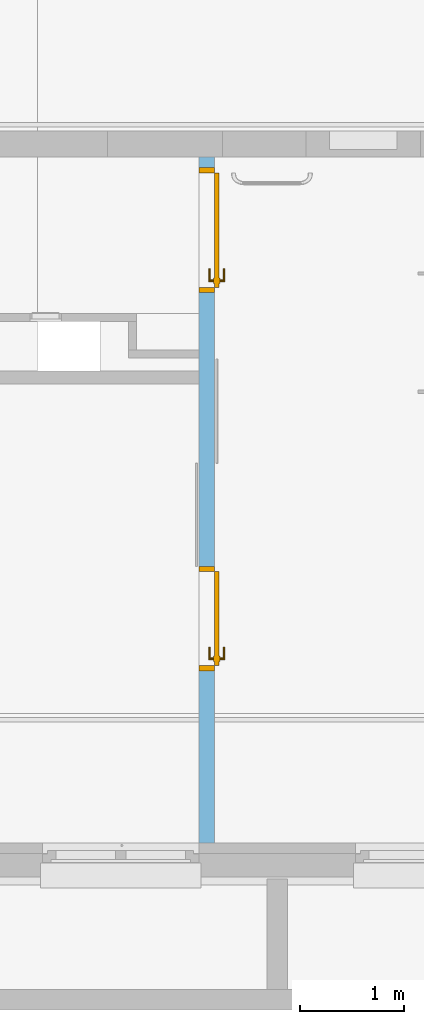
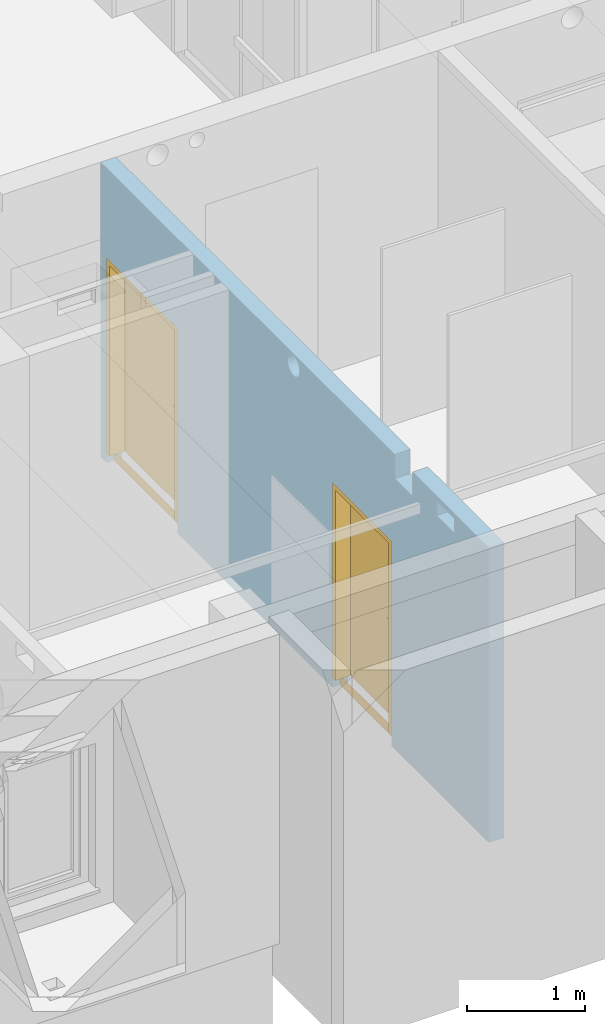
# One storey, part 54 of 84: 2 doors, 5 openings, plus 1 element that does not belong to this part.
"""IFC4 building model written with IfcOpenShell, lengths in metres."""

from ifc_helpers import new_model, entity, si_unit, converted_unit, derived_unit, frame, frame_2d, origin, origin_with_axes, place, context, subcontext, project, spatial, polyline, rectangle, outline, extrude, closed_shell, open_shell, surface_model, source, transform, mapped, material, layer, layer_set, layer_usage, type_object, element, fill, save


model = new_model("IFC4")

# Units and contexts
model_context = context("Model", 3, precision=1e-05, world=origin())
body_context = subcontext(model_context, "Body", "Model", "MODEL_VIEW")
ifc_project = project(units=[si_unit("LENGTHUNIT", "METRE"), si_unit("AREAUNIT", "SQUARE_METRE"), si_unit("VOLUMEUNIT", "CUBIC_METRE"), si_unit("MASSUNIT", "GRAM", prefix="KILO"), converted_unit("PLANEANGLEUNIT", "DEGREE", entity("IfcPlaneAngleMeasure", 0.0174532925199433), si_unit("PLANEANGLEUNIT", "RADIAN"), dimensions=[0, 0, 0, 0, 0, 0, 0]), derived_unit("THERMALTRANSMITTANCEUNIT", [(si_unit("POWERUNIT", "WATT"), 1), (si_unit("THERMODYNAMICTEMPERATUREUNIT", "KELVIN"), -1), (si_unit("LENGTHUNIT", "METRE"), -2)]), derived_unit("VOLUMETRICFLOWRATEUNIT", [(si_unit("LENGTHUNIT", "METRE"), 3), (converted_unit("TIMEUNIT", "hour", entity("IfcTimeMeasure", 3600.0), si_unit("TIMEUNIT", "SECOND"), dimensions=[0, 0, 1, 0, 0, 0, 0]), -1), (si_unit("LENGTHUNIT", "METRE"), -1)])], contexts=[model_context])

# Site, building, storey
site_placement = place(None, origin())
site = spatial("IfcSite", under=ifc_project, at=site_placement, Name="3. ASŘ", CompositionType="ELEMENT")
building_placement = place(site_placement, origin())
building = spatial("IfcBuilding", under=site, at=building_placement, Name="Pavilon C", CompositionType="ELEMENT")
storey_placement = place(building_placement, frame((0.0, 0.0, -3.3)))
storey = spatial("IfcBuildingStorey", under=building, at=storey_placement, Name="Půdorys 1.PP", CompositionType="ELEMENT", Elevation=-3.3)

# Wall, openings, doors
ifc_material = material(Name="SDK BARYT - 1 KCE + DVOJITÉ OPLÁ")
ifc_layer = layer(ifc_material, 0.15)
ifc_layer_set = layer_set([ifc_layer])
ifc_layer_usage = layer_usage(ifc_layer_set, "AXIS2", "POSITIVE", 0.0)
wall_placement = place(storey_placement, frame((14.25, 7.275, -0.1), z_axis=(0.0, 0.0, 1.0), x_axis=(0.0, -1.0, 0.0)))
wall = element("IfcWall", 1, at=wall_placement, inside=storey, material=ifc_layer_usage, Name="SDK BARYT - 1 KCE + DVOJITÉ OPLÁ", context=body_context, shape_type="SweptSolid", body=[
    extrude(rectangle(XDim=6.575, YDim=0.15, at=frame_2d((3.2875, 0.075), x_axis=(1.0, 0.0))), origin_with_axes(), (0.0, 0.0, 1.0), 3.05),
])
opening_1_placement = place(wall_placement, frame((3.925, 0.0, 0.0), z_axis=(0.0, 1.0, 0.0), x_axis=(0.0, 0.0, 1.0)))
opening_1 = element("IfcOpeningElement", 2, at=opening_1_placement, cuts=wall, Name="Dveřní otvor", ObjectType="Opening", context=body_context, shape_type="SweptSolid", body=[
    extrude(outline(polyline([(0.0, 1.0), (2.12, 1.0), (2.12, 0.0), (0.0, 0.0), (0.0, 1.0)])), origin_with_axes(), (0.0, 0.0, 1.0), 0.15),
])
opening_2_placement = place(wall_placement, frame((0.1, 0.0, 0.0), z_axis=(0.0, 1.0, 0.0), x_axis=(0.0, 0.0, 1.0)))
opening_2 = element("IfcOpeningElement", 3, at=opening_2_placement, cuts=wall, Name="Dveřní otvor", ObjectType="Opening", context=body_context, shape_type="SweptSolid", body=[
    extrude(outline(polyline([(0.0, 1.2), (2.12, 1.2), (2.12, 0.0), (0.0, 0.0), (0.0, 1.2)])), origin_with_axes(), (0.0, 0.0, 1.0), 0.15),
])
opening_3_placement = place(wall_placement, frame((5.69218911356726, 0.0, 2.85), z_axis=(0.0, 1.0, 0.0), x_axis=(0.0, 0.0, 1.0)))
element("IfcOpeningElement", 4, at=opening_3_placement, cuts=wall, Name="UT", ObjectType="Opening", context=body_context, shape_type="SweptSolid", body=[
    extrude(outline(polyline([(0.0, 0.3), (0.15, 0.3), (0.15, 0.0), (0.0, 0.0), (0.0, 0.3)])), origin_with_axes(), (0.0, 0.0, 1.0), 0.15),
])
opening_4_placement = place(wall_placement, frame((4.98218911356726, 0.0, 2.8), z_axis=(0.0, 1.0, 0.0), x_axis=(0.0, 0.0, 1.0)))
element("IfcOpeningElement", 5, at=opening_4_placement, cuts=wall, Name="VZT", ObjectType="Opening", context=body_context, shape_type="SweptSolid", body=[
    extrude(outline(polyline([(0.0, 0.3), (0.25, 0.3), (0.25, 0.0), (0.0, 0.0), (0.0, 0.3)])), origin_with_axes(), (0.0, 0.0, 1.0), 0.15),
])
opening_5_placement = place(wall_placement, frame((3.37083752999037, 0.15, 2.825), z_axis=(0.0, -1.0, 0.0), x_axis=(0.0, 0.0, 1.0)))
element("IfcOpeningElement", 6, at=opening_5_placement, cuts=wall, Name="VZT", ObjectType="Opening", context=body_context, shape_type="SweptSolid", body=[
    extrude(outline(polyline([(0.105, 0.0), (0.0940245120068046, 0.000575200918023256), (0.0831692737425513, 0.00229450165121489), (0.0725532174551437, 0.00513906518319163), (0.0622926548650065, 0.0090777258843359), (0.052500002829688, 0.0140673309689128), (0.04328255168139, 0.0200532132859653), (0.0347412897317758, 0.0269697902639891), (0.0269697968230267, 0.0347412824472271), (0.0200532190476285, 0.043282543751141), (0.0140673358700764, 0.0524999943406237), (0.00907772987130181, 0.0622926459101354), (0.00513906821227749, 0.0725532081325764), (0.00229450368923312, 0.0831692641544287), (0.000575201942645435, 0.0940245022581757), (0.0, 0.104999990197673), (0.00057519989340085, 0.115975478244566), (0.00229449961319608, 0.126830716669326), (0.00513906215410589, 0.137446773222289), (0.00907772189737, 0.147707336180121), (0.0140673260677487, 0.157499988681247), (0.0200532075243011, 0.166717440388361), (0.0269697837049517, 0.175258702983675), (0.0347412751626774, 0.183030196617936), (0.0432825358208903, 0.189946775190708), (0.052499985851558, 0.19593265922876), (0.0622926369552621, 0.200922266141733), (0.0725531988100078, 0.204860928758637), (0.0831692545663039, 0.207705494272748), (0.0940244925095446, 0.209424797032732), (0.104999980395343, 0.21), (0.115975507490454, 0.209424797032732), (0.126830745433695, 0.207705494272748), (0.137446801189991, 0.204860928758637), (0.147707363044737, 0.200922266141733), (0.157500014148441, 0.19593265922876), (0.166717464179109, 0.189946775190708), (0.175258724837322, 0.183030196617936), (0.183030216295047, 0.175258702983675), (0.189946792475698, 0.166717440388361), (0.19593267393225, 0.157499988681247), (0.200922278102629, 0.147707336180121), (0.204860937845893, 0.137446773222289), (0.207705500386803, 0.126830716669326), (0.209424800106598, 0.115975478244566), (0.209999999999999, 0.104999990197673), (0.209424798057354, 0.0940245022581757), (0.207705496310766, 0.0831692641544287), (0.204860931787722, 0.0725532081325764), (0.200922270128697, 0.0622926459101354), (0.195932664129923, 0.0524999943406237), (0.18994678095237, 0.043282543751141), (0.183030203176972, 0.0347412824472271), (0.175258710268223, 0.0269697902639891), (0.166717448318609, 0.0200532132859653), (0.157499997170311, 0.0140673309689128), (0.147707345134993, 0.0090777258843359), (0.137446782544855, 0.00513906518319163), (0.126830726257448, 0.00229450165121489), (0.115975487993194, 0.000575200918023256), (0.105, 0.0)])), origin_with_axes(), (0.0, 0.0, 1.0), 0.15),
])
door_type_1 = type_object("IfcDoorType", Name="I.D023", OperationType="NOTDEFINED", ParameterTakesPrecedence=False, PredefinedType="DOOR")
shared_shape_1 = source(origin_with_axes(), body_context, "Body", "SurfaceModel", [
    surface_model("IfcShellBasedSurfaceModel", [(0.0, 0.075, 0.0), (1.0, 0.075, 0.0), (1.0, 0.075, 0.1), (0.0, 0.075, 0.1)], [open_shell([[[0, 1, 2, 3]]], orient=[[False]])]),
    surface_model("IfcShellBasedSurfaceModel", [(0.0, 0.15, 2.12), (0.0, 0.15, 0.101), (0.05, 0.15, 0.101), (0.05, 0.15, 2.12), (0.0, 0.0, 0.101), (0.0, 2.55795384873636e-16, 2.12), (0.05, 2.55795384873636e-16, 2.12), (0.05, 0.0, 0.101)], [closed_shell([[[0, 1, 2, 3]], [[4, 5, 6, 7]], [[1, 0, 5, 4]], [[2, 1, 4, 7]], [[3, 2, 7, 6]], [[0, 3, 6, 5]]], orient=[[False], [False], [False], [False], [False], [False]])]),
    surface_model("IfcShellBasedSurfaceModel", [(0.95, 0.15, 2.12), (0.95, 0.15, 0.101), (1.0, 0.15, 0.101), (1.0, 0.15, 2.12), (0.95, 0.0, 0.101), (0.95, 2.55795384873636e-16, 2.12), (1.0, 2.55795384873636e-16, 2.12), (1.0, 0.0, 0.101)], [closed_shell([[[0, 1, 2, 3]], [[4, 5, 6, 7]], [[1, 0, 5, 4]], [[2, 1, 4, 7]], [[3, 2, 7, 6]], [[0, 3, 6, 5]]], orient=[[False], [False], [False], [False], [False], [False]])]),
    surface_model("IfcShellBasedSurfaceModel", [(0.05, 0.15, 2.12), (0.05, 0.15, 2.07), (0.95, 0.15, 2.07), (0.95, 0.15, 2.12), (0.05, 2.27373675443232e-16, 2.07), (0.05, 2.27373675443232e-16, 2.12), (0.95, 2.27373675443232e-16, 2.12), (0.95, 2.27373675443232e-16, 2.07)], [closed_shell([[[0, 1, 2, 3]], [[4, 5, 6, 7]], [[1, 0, 5, 4]], [[2, 1, 4, 7]], [[3, 2, 7, 6]], [[0, 3, 6, 5]]], orient=[[False], [False], [False], [False], [False], [False]])]),
    surface_model("IfcShellBasedSurfaceModel", [(0.05, 0.19, 2.07), (0.05, 0.19, 0.101), (0.95, 0.19, 0.101), (0.95, 0.19, 2.07), (0.05, 0.15, 0.101), (0.05, 0.15, 2.07), (0.95, 0.15, 2.07), (0.95, 0.15, 0.101)], [closed_shell([[[0, 1, 2, 3]], [[4, 5, 6, 7]], [[1, 0, 5, 4]], [[2, 1, 4, 7]], [[3, 2, 7, 6]], [[0, 3, 6, 5]]], orient=[[False], [False], [False], [False], [False], [False]])]),
    surface_model("IfcShellBasedSurfaceModel", [(0.86, 0.15, 1.226), (0.86, 0.15, 1.011), (0.91, 0.15, 1.011), (0.91, 0.15, 1.226), (0.86, 0.14, 1.011), (0.86, 0.14, 1.226), (0.91, 0.14, 1.226), (0.91, 0.14, 1.011)], [closed_shell([[[0, 1, 2, 3]], [[4, 5, 6, 7]], [[1, 0, 5, 4]], [[2, 1, 4, 7]], [[3, 2, 7, 6]], [[0, 3, 6, 5]]], orient=[[False], [False], [False], [False], [False], [False]])]),
    surface_model("IfcShellBasedSurfaceModel", [(0.885, 0.14, 1.161), (0.88, 0.14, 1.15966025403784), (0.876339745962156, 0.14, 1.156), (0.875, 0.14, 1.151), (0.876339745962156, 0.14, 1.146), (0.88, 0.14, 1.14233974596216), (0.885, 0.14, 1.141), (0.89, 0.14, 1.14233974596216), (0.893660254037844, 0.14, 1.146), (0.895, 0.14, 1.151), (0.893660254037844, 0.14, 1.156), (0.89, 0.14, 1.15966025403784), (0.89, 0.0950000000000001, 1.15966025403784), (0.885, 0.1, 1.161), (0.893660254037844, 0.0913397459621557, 1.156), (0.895, 0.0900000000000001, 1.151), (0.893660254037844, 0.0913397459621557, 1.146), (0.89, 0.0950000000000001, 1.14233974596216), (0.885, 0.1, 1.141), (0.88, 0.105, 1.14233974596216), (0.876339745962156, 0.108660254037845, 1.146), (0.875, 0.11, 1.151), (0.876339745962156, 0.108660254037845, 1.156), (0.88, 0.105, 1.15966025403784), (0.77, 0.0950000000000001, 1.15966025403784), (0.77, 0.1, 1.161), (0.77, 0.0913397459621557, 1.156), (0.77, 0.0900000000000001, 1.151), (0.77, 0.0913397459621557, 1.146), (0.77, 0.0950000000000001, 1.14233974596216), (0.77, 0.1, 1.141), (0.77, 0.105, 1.14233974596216), (0.77, 0.108660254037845, 1.146), (0.77, 0.11, 1.151), (0.77, 0.108660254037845, 1.156), (0.77, 0.105, 1.15966025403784)], [open_shell([[[0, 1, 2, 3, 4, 5, 6, 7, 8, 9, 10, 11]], [[0, 11, 12, 13]], [[11, 10, 14, 12]], [[10, 9, 15, 14]], [[9, 8, 16, 15]], [[8, 7, 17, 16]], [[7, 6, 18, 17]], [[6, 5, 19, 18]], [[5, 4, 20, 19]], [[4, 3, 21, 20]], [[3, 2, 22, 21]], [[2, 1, 23, 22]], [[1, 0, 13, 23]], [[13, 12, 24, 25]], [[12, 14, 26, 24]], [[14, 15, 27, 26]], [[15, 16, 28, 27]], [[16, 17, 29, 28]], [[17, 18, 30, 29]], [[18, 19, 31, 30]], [[19, 20, 32, 31]], [[20, 21, 33, 32]], [[21, 22, 34, 33]], [[22, 23, 35, 34]], [[23, 13, 25, 35]]], orient=[[False], [False], [False], [False], [False], [False], [False], [False], [False], [False], [False], [False], [False], [False], [False], [False], [False], [False], [False], [False], [False], [False], [False], [False], [False]])]),
    surface_model("IfcShellBasedSurfaceModel", [(0.86, 0.19, 1.226), (0.91, 0.19, 1.226), (0.91, 0.19, 1.011), (0.86, 0.19, 1.011), (0.86, 0.2, 1.011), (0.91, 0.2, 1.011), (0.91, 0.2, 1.226), (0.86, 0.2, 1.226)], [closed_shell([[[0, 1, 2, 3]], [[4, 5, 6, 7]], [[3, 4, 7, 0]], [[2, 5, 4, 3]], [[1, 6, 5, 2]], [[0, 7, 6, 1]]], orient=[[False], [False], [False], [False], [False], [False]])]),
    surface_model("IfcShellBasedSurfaceModel", [(0.885, 0.2, 1.161), (0.89, 0.2, 1.15966025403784), (0.893660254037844, 0.2, 1.156), (0.895, 0.2, 1.151), (0.893660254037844, 0.2, 1.146), (0.89, 0.2, 1.14233974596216), (0.885, 0.2, 1.141), (0.88, 0.2, 1.14233974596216), (0.876339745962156, 0.2, 1.146), (0.875, 0.2, 1.151), (0.876339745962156, 0.2, 1.156), (0.88, 0.2, 1.15966025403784), (0.885, 0.24, 1.161), (0.89, 0.245, 1.15966025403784), (0.893660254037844, 0.248660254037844, 1.156), (0.895, 0.25, 1.151), (0.893660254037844, 0.248660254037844, 1.146), (0.89, 0.245, 1.14233974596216), (0.885, 0.24, 1.141), (0.88, 0.235, 1.14233974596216), (0.876339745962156, 0.231339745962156, 1.146), (0.875, 0.23, 1.151), (0.876339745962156, 0.231339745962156, 1.156), (0.88, 0.235, 1.15966025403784), (0.77, 0.24, 1.161), (0.77, 0.245, 1.15966025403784), (0.77, 0.248660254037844, 1.156), (0.77, 0.25, 1.151), (0.77, 0.248660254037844, 1.146), (0.77, 0.245, 1.14233974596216), (0.77, 0.24, 1.141), (0.77, 0.235, 1.14233974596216), (0.77, 0.231339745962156, 1.146), (0.77, 0.23, 1.151), (0.77, 0.231339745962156, 1.156), (0.77, 0.235, 1.15966025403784)], [open_shell([[[0, 1, 2, 3, 4, 5, 6, 7, 8, 9, 10, 11]], [[0, 12, 13, 1]], [[1, 13, 14, 2]], [[2, 14, 15, 3]], [[3, 15, 16, 4]], [[4, 16, 17, 5]], [[5, 17, 18, 6]], [[6, 18, 19, 7]], [[7, 19, 20, 8]], [[8, 20, 21, 9]], [[9, 21, 22, 10]], [[10, 22, 23, 11]], [[11, 23, 12, 0]], [[12, 24, 25, 13]], [[13, 25, 26, 14]], [[14, 26, 27, 15]], [[15, 27, 28, 16]], [[16, 28, 29, 17]], [[17, 29, 30, 18]], [[18, 30, 31, 19]], [[19, 31, 32, 20]], [[20, 32, 33, 21]], [[21, 33, 34, 22]], [[22, 34, 35, 23]], [[23, 35, 24, 12]]], orient=[[False], [False], [False], [False], [False], [False], [False], [False], [False], [False], [False], [False], [False], [False], [False], [False], [False], [False], [False], [False], [False], [False], [False], [False], [False]])]),
])
door_1_placement = place(opening_1_placement, frame((0.0, 9.09494701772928e-16, -3.63797880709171e-15), z_axis=(1.0, 0.0, 0.0), x_axis=(0.0, 1.0, 1.22464679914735e-16)))
door_1 = element("IfcDoor", 7, at=door_1_placement, inside=storey, type_object=door_type_1, Name="I.D023", OverallHeight=2.12, OverallWidth=1.0, context=body_context, shape_type="MappedRepresentation", body=[
    mapped(shared_shape_1, transform((0.0, 0.0, 0.0), x_axis=(1.0, 0.0, 0.0), y_axis=(0.0, 1.0, 0.0), z_axis=(0.0, 0.0, 1.0), scale=1.0)),
])
fill(opening_1, door_1)
door_type_2 = type_object("IfcDoorType", Name="I.D022", OperationType="NOTDEFINED", ParameterTakesPrecedence=False, PredefinedType="DOOR")
shared_shape_2 = source(origin_with_axes(), body_context, "Body", "SurfaceModel", [
    surface_model("IfcShellBasedSurfaceModel", [(0.0, 0.075, 0.0), (1.2, 0.075, 0.0), (1.2, 0.075, 0.1), (0.0, 0.075, 0.1)], [open_shell([[[0, 1, 2, 3]]], orient=[[False]])]),
    surface_model("IfcShellBasedSurfaceModel", [(0.0, 0.15, 2.12), (0.0, 0.15, 0.101), (0.05, 0.15, 0.101), (0.05, 0.15, 2.12), (0.0, 0.0, 0.101), (0.0, 2.55795384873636e-16, 2.12), (0.05, 2.55795384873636e-16, 2.12), (0.05, 0.0, 0.101)], [closed_shell([[[0, 1, 2, 3]], [[4, 5, 6, 7]], [[1, 0, 5, 4]], [[2, 1, 4, 7]], [[3, 2, 7, 6]], [[0, 3, 6, 5]]], orient=[[False], [False], [False], [False], [False], [False]])]),
    surface_model("IfcShellBasedSurfaceModel", [(1.15, 0.15, 2.12), (1.15, 0.15, 0.101), (1.2, 0.15, 0.101), (1.2, 0.15, 2.12), (1.15, 0.0, 0.101), (1.15, 2.55795384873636e-16, 2.12), (1.2, 2.55795384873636e-16, 2.12), (1.2, 0.0, 0.101)], [closed_shell([[[0, 1, 2, 3]], [[4, 5, 6, 7]], [[1, 0, 5, 4]], [[2, 1, 4, 7]], [[3, 2, 7, 6]], [[0, 3, 6, 5]]], orient=[[False], [False], [False], [False], [False], [False]])]),
    surface_model("IfcShellBasedSurfaceModel", [(0.05, 0.15, 2.12), (0.05, 0.15, 2.07), (1.15, 0.15, 2.07), (1.15, 0.15, 2.12), (0.05, 2.27373675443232e-16, 2.07), (0.05, 2.27373675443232e-16, 2.12), (1.15, 2.27373675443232e-16, 2.12), (1.15, 2.27373675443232e-16, 2.07)], [closed_shell([[[0, 1, 2, 3]], [[4, 5, 6, 7]], [[1, 0, 5, 4]], [[2, 1, 4, 7]], [[3, 2, 7, 6]], [[0, 3, 6, 5]]], orient=[[False], [False], [False], [False], [False], [False]])]),
    surface_model("IfcShellBasedSurfaceModel", [(0.05, 0.19, 2.07), (0.05, 0.19, 0.101), (1.15, 0.19, 0.101), (1.15, 0.19, 2.07), (0.05, 0.15, 0.101), (0.05, 0.15, 2.07), (1.15, 0.15, 2.07), (1.15, 0.15, 0.101)], [closed_shell([[[0, 1, 2, 3]], [[4, 5, 6, 7]], [[1, 0, 5, 4]], [[2, 1, 4, 7]], [[3, 2, 7, 6]], [[0, 3, 6, 5]]], orient=[[False], [False], [False], [False], [False], [False]])]),
    surface_model("IfcShellBasedSurfaceModel", [(1.06, 0.15, 1.226), (1.06, 0.15, 1.011), (1.11, 0.15, 1.011), (1.11, 0.15, 1.226), (1.06, 0.14, 1.011), (1.06, 0.14, 1.226), (1.11, 0.14, 1.226), (1.11, 0.14, 1.011)], [closed_shell([[[0, 1, 2, 3]], [[4, 5, 6, 7]], [[1, 0, 5, 4]], [[2, 1, 4, 7]], [[3, 2, 7, 6]], [[0, 3, 6, 5]]], orient=[[False], [False], [False], [False], [False], [False]])]),
    surface_model("IfcShellBasedSurfaceModel", [(1.085, 0.14, 1.161), (1.08, 0.14, 1.15966025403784), (1.07633974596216, 0.14, 1.156), (1.075, 0.14, 1.151), (1.07633974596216, 0.14, 1.146), (1.08, 0.14, 1.14233974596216), (1.085, 0.14, 1.141), (1.09, 0.14, 1.14233974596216), (1.09366025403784, 0.14, 1.146), (1.095, 0.14, 1.151), (1.09366025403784, 0.14, 1.156), (1.09, 0.14, 1.15966025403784), (1.09, 0.0950000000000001, 1.15966025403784), (1.085, 0.1, 1.161), (1.09366025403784, 0.0913397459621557, 1.156), (1.095, 0.0900000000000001, 1.151), (1.09366025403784, 0.0913397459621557, 1.146), (1.09, 0.0950000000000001, 1.14233974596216), (1.085, 0.1, 1.141), (1.08, 0.105, 1.14233974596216), (1.07633974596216, 0.108660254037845, 1.146), (1.075, 0.11, 1.151), (1.07633974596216, 0.108660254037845, 1.156), (1.08, 0.105, 1.15966025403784), (0.97, 0.0950000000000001, 1.15966025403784), (0.97, 0.1, 1.161), (0.97, 0.0913397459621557, 1.156), (0.97, 0.0900000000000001, 1.151), (0.97, 0.0913397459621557, 1.146), (0.97, 0.0950000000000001, 1.14233974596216), (0.97, 0.1, 1.141), (0.97, 0.105, 1.14233974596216), (0.97, 0.108660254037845, 1.146), (0.97, 0.11, 1.151), (0.97, 0.108660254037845, 1.156), (0.97, 0.105, 1.15966025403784)], [open_shell([[[0, 1, 2, 3, 4, 5, 6, 7, 8, 9, 10, 11]], [[0, 11, 12, 13]], [[11, 10, 14, 12]], [[10, 9, 15, 14]], [[9, 8, 16, 15]], [[8, 7, 17, 16]], [[7, 6, 18, 17]], [[6, 5, 19, 18]], [[5, 4, 20, 19]], [[4, 3, 21, 20]], [[3, 2, 22, 21]], [[2, 1, 23, 22]], [[1, 0, 13, 23]], [[13, 12, 24, 25]], [[12, 14, 26, 24]], [[14, 15, 27, 26]], [[15, 16, 28, 27]], [[16, 17, 29, 28]], [[17, 18, 30, 29]], [[18, 19, 31, 30]], [[19, 20, 32, 31]], [[20, 21, 33, 32]], [[21, 22, 34, 33]], [[22, 23, 35, 34]], [[23, 13, 25, 35]]], orient=[[False], [False], [False], [False], [False], [False], [False], [False], [False], [False], [False], [False], [False], [False], [False], [False], [False], [False], [False], [False], [False], [False], [False], [False], [False]])]),
    surface_model("IfcShellBasedSurfaceModel", [(1.06, 0.19, 1.226), (1.11, 0.19, 1.226), (1.11, 0.19, 1.011), (1.06, 0.19, 1.011), (1.06, 0.2, 1.011), (1.11, 0.2, 1.011), (1.11, 0.2, 1.226), (1.06, 0.2, 1.226)], [closed_shell([[[0, 1, 2, 3]], [[4, 5, 6, 7]], [[3, 4, 7, 0]], [[2, 5, 4, 3]], [[1, 6, 5, 2]], [[0, 7, 6, 1]]], orient=[[False], [False], [False], [False], [False], [False]])]),
    surface_model("IfcShellBasedSurfaceModel", [(1.085, 0.2, 1.161), (1.09, 0.2, 1.15966025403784), (1.09366025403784, 0.2, 1.156), (1.095, 0.2, 1.151), (1.09366025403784, 0.2, 1.146), (1.09, 0.2, 1.14233974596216), (1.085, 0.2, 1.141), (1.08, 0.2, 1.14233974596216), (1.07633974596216, 0.2, 1.146), (1.075, 0.2, 1.151), (1.07633974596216, 0.2, 1.156), (1.08, 0.2, 1.15966025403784), (1.085, 0.24, 1.161), (1.09, 0.245, 1.15966025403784), (1.09366025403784, 0.248660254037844, 1.156), (1.095, 0.25, 1.151), (1.09366025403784, 0.248660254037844, 1.146), (1.09, 0.245, 1.14233974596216), (1.085, 0.24, 1.141), (1.08, 0.235, 1.14233974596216), (1.07633974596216, 0.231339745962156, 1.146), (1.075, 0.23, 1.151), (1.07633974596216, 0.231339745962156, 1.156), (1.08, 0.235, 1.15966025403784), (0.97, 0.24, 1.161), (0.97, 0.245, 1.15966025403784), (0.97, 0.248660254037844, 1.156), (0.97, 0.25, 1.151), (0.97, 0.248660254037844, 1.146), (0.97, 0.245, 1.14233974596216), (0.97, 0.24, 1.141), (0.97, 0.235, 1.14233974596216), (0.97, 0.231339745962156, 1.146), (0.97, 0.23, 1.151), (0.97, 0.231339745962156, 1.156), (0.97, 0.235, 1.15966025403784)], [open_shell([[[0, 1, 2, 3, 4, 5, 6, 7, 8, 9, 10, 11]], [[0, 12, 13, 1]], [[1, 13, 14, 2]], [[2, 14, 15, 3]], [[3, 15, 16, 4]], [[4, 16, 17, 5]], [[5, 17, 18, 6]], [[6, 18, 19, 7]], [[7, 19, 20, 8]], [[8, 20, 21, 9]], [[9, 21, 22, 10]], [[10, 22, 23, 11]], [[11, 23, 12, 0]], [[12, 24, 25, 13]], [[13, 25, 26, 14]], [[14, 26, 27, 15]], [[15, 27, 28, 16]], [[16, 28, 29, 17]], [[17, 29, 30, 18]], [[18, 30, 31, 19]], [[19, 31, 32, 20]], [[20, 32, 33, 21]], [[21, 33, 34, 22]], [[22, 34, 35, 23]], [[23, 35, 24, 12]]], orient=[[False], [False], [False], [False], [False], [False], [False], [False], [False], [False], [False], [False], [False], [False], [False], [False], [False], [False], [False], [False], [False], [False], [False], [False], [False]])]),
])
door_2_placement = place(opening_2_placement, frame((0.0, 1.81898940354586e-15, -3.63797880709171e-15), z_axis=(1.0, 0.0, 0.0), x_axis=(0.0, 1.0, 1.22464679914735e-16)))
door_2 = element("IfcDoor", 8, at=door_2_placement, inside=storey, type_object=door_type_2, Name="I.D022", OverallHeight=2.12, OverallWidth=1.2, context=body_context, shape_type="MappedRepresentation", body=[
    mapped(shared_shape_2, transform((0.0, 0.0, 0.0), x_axis=(1.0, 0.0, 0.0), y_axis=(0.0, 1.0, 0.0), z_axis=(0.0, 0.0, 1.0), scale=1.0)),
])
fill(opening_2, door_2)

save(model, "model.ifc")
